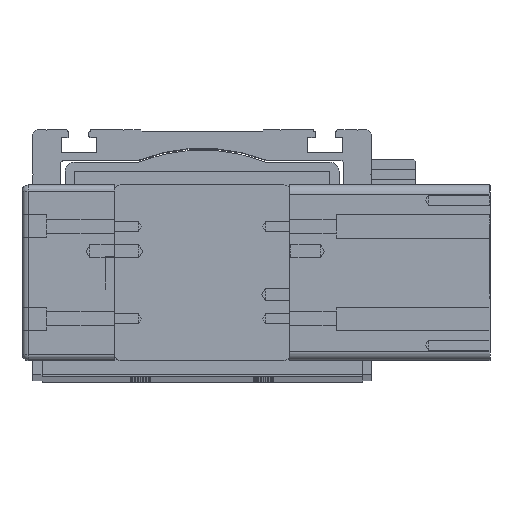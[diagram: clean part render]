
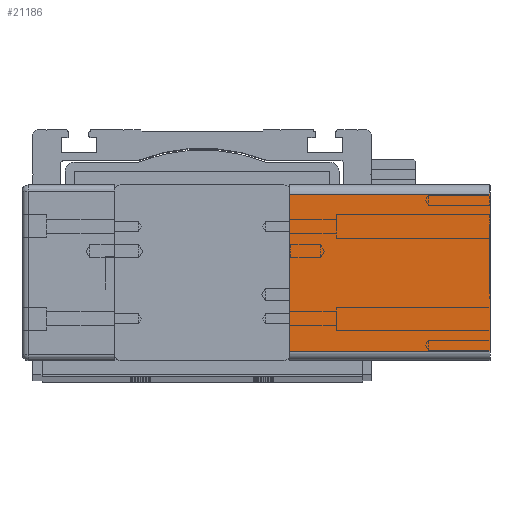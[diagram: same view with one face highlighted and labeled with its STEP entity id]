
A CAD part, top view. The second image highlights one B-rep face of the part: STEP entity #21186.
In plain terms, the highlighted planar face has unit normal (0, 0, 1) as drawn and (-1, 0, 0) by its records, which use the part's own axes.
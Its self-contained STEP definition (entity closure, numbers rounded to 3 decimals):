
#20920=CARTESIAN_POINT('',(0.0,54.0,0.0));
#20921=VERTEX_POINT('',#20920);
#20929=CARTESIAN_POINT('',(0.0,3.,0.0));
#20930=VERTEX_POINT('',#20929);
#20931=CARTESIAN_POINT('',(0.0,54.0,0.0));
#20932=DIRECTION('',(0.0,-1.0,0.0));
#20933=VECTOR('',#20932,51.0);
#20934=LINE('',#20931,#20933);
#20935=EDGE_CURVE('',#20921,#20930,#20934,.T.);
#21069=CARTESIAN_POINT('',(0.0,3.,-65.0));
#21070=VERTEX_POINT('',#21069);
#21087=CARTESIAN_POINT('',(0.0,3.,0.0));
#21088=DIRECTION('',(0.0,0.0,-1.0));
#21089=VECTOR('',#21088,65.0);
#21090=LINE('',#21087,#21089);
#21091=EDGE_CURVE('',#20930,#21070,#21090,.T.);
#21145=CARTESIAN_POINT('',(0.0,54.0,-65.0));
#21146=VERTEX_POINT('',#21145);
#21154=CARTESIAN_POINT('',(0.0,54.0,-65.0));
#21155=DIRECTION('',(0.0,0.0,1.0));
#21156=VECTOR('',#21155,65.0);
#21157=LINE('',#21154,#21156);
#21158=EDGE_CURVE('',#21146,#20921,#21157,.T.);
#21170=CARTESIAN_POINT('',(0.0,57.0,0.0));
#21171=DIRECTION('',(-1.0,0.0,0.0));
#21172=DIRECTION('',(0.0,0.0,1.0));
#21173=AXIS2_PLACEMENT_3D('',#21170,#21171,#21172);
#21174=PLANE('',#21173);
#21175=ORIENTED_EDGE('',*,*,#21091,.F.);
#21176=ORIENTED_EDGE('',*,*,#20935,.F.);
#21177=ORIENTED_EDGE('',*,*,#21158,.F.);
#21178=CARTESIAN_POINT('',(0.0,54.0,-65.0));
#21179=DIRECTION('',(0.0,-1.0,0.0));
#21180=VECTOR('',#21179,51.0);
#21181=LINE('',#21178,#21180);
#21182=EDGE_CURVE('',#21146,#21070,#21181,.T.);
#21183=ORIENTED_EDGE('',*,*,#21182,.T.);
#21184=EDGE_LOOP('',(#21175,#21176,#21177,#21183));
#21185=FACE_OUTER_BOUND('',#21184,.T.);
#21186=ADVANCED_FACE('',(#21185),#21174,.T.);
